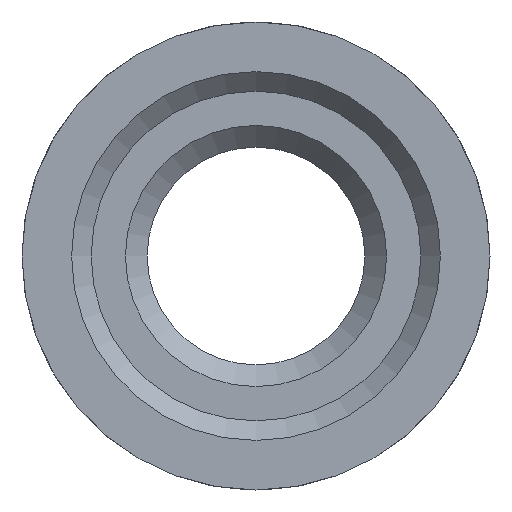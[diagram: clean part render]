
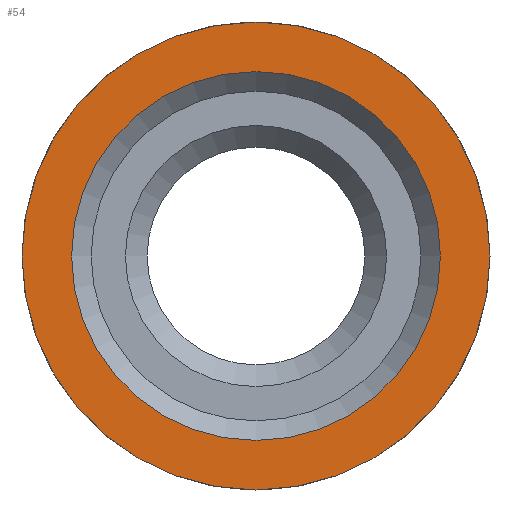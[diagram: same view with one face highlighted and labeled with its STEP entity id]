
A CAD part, front view. The second image highlights one B-rep face of the part: STEP entity #54.
In plain terms, the highlighted planar face has unit normal (0, -1, 0).
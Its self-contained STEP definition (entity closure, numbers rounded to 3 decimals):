
#54=ADVANCED_FACE('',(#210,#212),#214,.F.);
#210=FACE_BOUND('',#211,.T.);
#211=EDGE_LOOP('',(#892));
#212=FACE_BOUND('',#213,.T.);
#213=EDGE_LOOP('',(#893));
#214=PLANE('',#215);
#215=AXIS2_PLACEMENT_3D('',#216,#217,#218);
#216=CARTESIAN_POINT('',(0.,-27.5,0.));
#217=DIRECTION('',(0.,1.,0.));
#218=DIRECTION('',(-1.,0.,0.));
#892=ORIENTED_EDGE('',*,*,#1095,.T.);
#893=ORIENTED_EDGE('',*,*,#1096,.T.);
#1095=EDGE_CURVE('',#1212,#1212,#1213,.T.);
#1096=EDGE_CURVE('',#1214,#1214,#1215,.F.);
#1212=VERTEX_POINT('',#1439);
#1213=CIRCLE('',#1440,21.5);
#1214=VERTEX_POINT('',#1444);
#1215=CIRCLE('',#1445,16.946);
#1439=CARTESIAN_POINT('',(21.5,-27.5,0.));
#1440=AXIS2_PLACEMENT_3D('',#1441,#1442,#1443);
#1441=CARTESIAN_POINT('',(0.,-27.5,0.));
#1442=DIRECTION('',(0.,-1.,0.));
#1443=DIRECTION('',(1.,0.,0.));
#1444=CARTESIAN_POINT('',(16.946,-27.5,0.));
#1445=AXIS2_PLACEMENT_3D('',#1446,#1447,#1448);
#1446=CARTESIAN_POINT('',(0.,-27.5,0.));
#1447=DIRECTION('',(0.,-1.,0.));
#1448=DIRECTION('',(1.,0.,0.));
